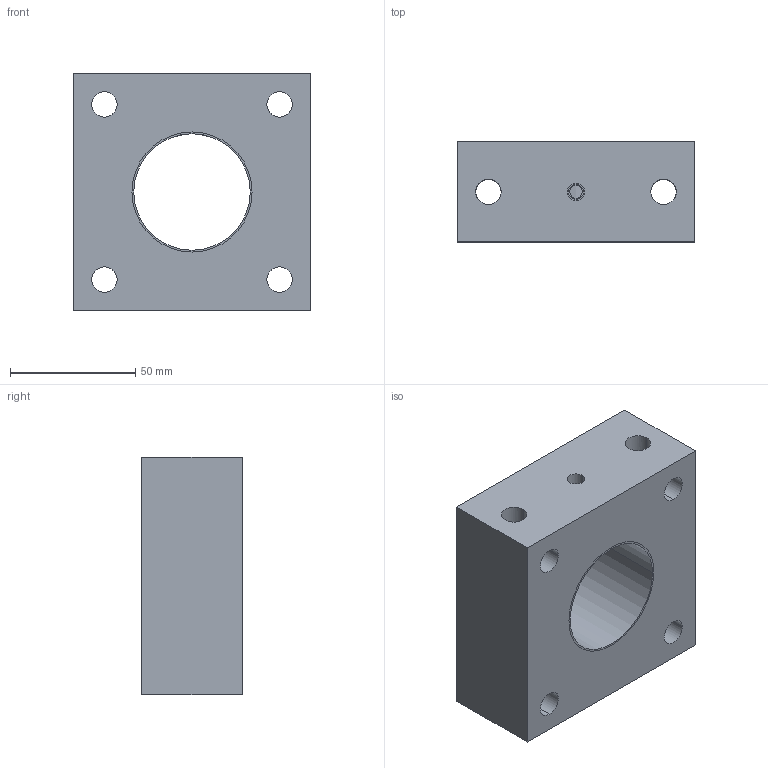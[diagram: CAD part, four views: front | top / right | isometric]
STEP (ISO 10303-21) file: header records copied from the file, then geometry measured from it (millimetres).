
FILE_DESCRIPTION((''),'2;1');
FILE_NAME('MF-482','2011-08-19T',('chad.steele'),(''),'PRO/ENGINEER BY PARAMETRIC TECHNOLOGY CORPORATION, 2010040','PRO/ENGINEER BY PARAMETRIC TECHNOLOGY CORPORATION, 2010040','');
FILE_SCHEMA(('CONFIG_CONTROL_DESIGN'));
Length unit declared in the file: millimetre
Products named in the file (1): MF-482
Bounding box: 95 x 40 x 95 mm (x, y, z)
Volume: 266570 mm3; surface area: 50931 mm2
Topology: 1 solids, 3 shells, 45 faces, 118 edges, 68 vertices
Faces by surface type: cylinder 38, plane 7
Entity records: 1737 total; most frequent: CARTESIAN_POINT 580, ORIENTED_EDGE 228, DIRECTION 222, EDGE_CURVE 118, AXIS2_PLACEMENT_3D 86, VERTEX_POINT 68, EDGE_LOOP 62, VECTOR 50
